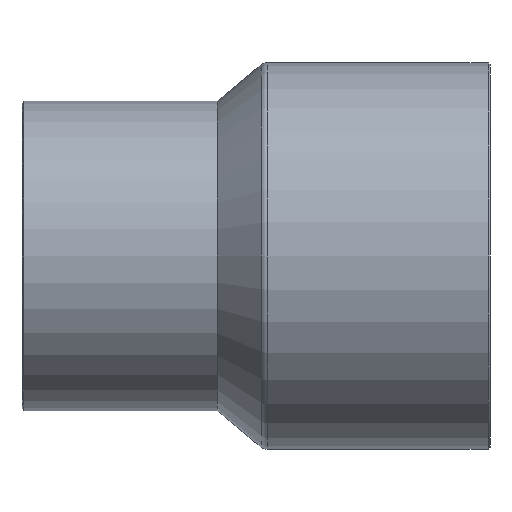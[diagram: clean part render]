
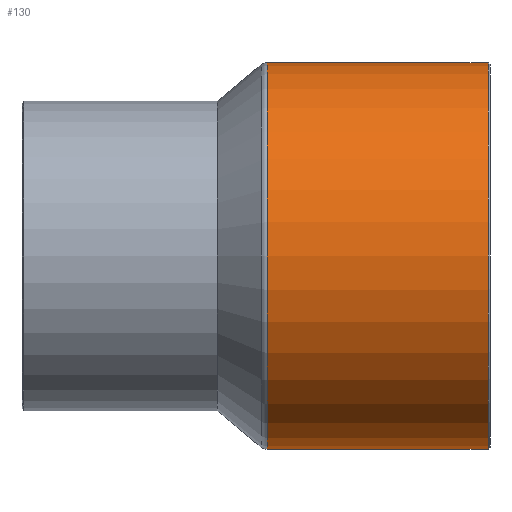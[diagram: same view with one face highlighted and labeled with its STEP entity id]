
A CAD part, front view. The second image highlights one B-rep face of the part: STEP entity #130.
In plain terms, the highlighted cylindrical face has radius 100 mm (diameter 200 mm), a full revolution.
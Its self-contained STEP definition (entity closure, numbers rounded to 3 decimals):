
#27=ORIENTED_EDGE('',*,*,#49,.T.);
#28=ORIENTED_EDGE('',*,*,#50,.T.);
#49=EDGE_CURVE('',#60,#60,#71,.T.);
#50=EDGE_CURVE('',#61,#61,#72,.T.);
#60=VERTEX_POINT('',#225);
#61=VERTEX_POINT('',#227);
#71=CIRCLE('',#155,100.);
#72=CIRCLE('',#156,100.);
#82=EDGE_LOOP('',(#27));
#83=EDGE_LOOP('',(#28));
#104=FACE_BOUND('',#82,.T.);
#105=FACE_BOUND('',#83,.T.);
#126=CYLINDRICAL_SURFACE('',#154,100.);
#130=ADVANCED_FACE('',(#104,#105),#126,.T.);
#154=AXIS2_PLACEMENT_3D('',#223,#178,#179);
#155=AXIS2_PLACEMENT_3D('',#224,#180,#181);
#156=AXIS2_PLACEMENT_3D('',#226,#182,#183);
#178=DIRECTION('',(-1.,0.,0.));
#179=DIRECTION('',(0.,0.,1.));
#180=DIRECTION('',(-1.,0.,0.));
#181=DIRECTION('',(0.,0.,1.));
#182=DIRECTION('',(1.,0.,0.));
#183=DIRECTION('',(0.,0.,-1.));
#223=CARTESIAN_POINT('',(-60.,0.,0.));
#224=CARTESIAN_POINT('',(128.,0.,0.));
#225=CARTESIAN_POINT('',(128.,0.,100.));
#226=CARTESIAN_POINT('',(13.81,0.,0.));
#227=CARTESIAN_POINT('',(13.81,0.,-100.));
